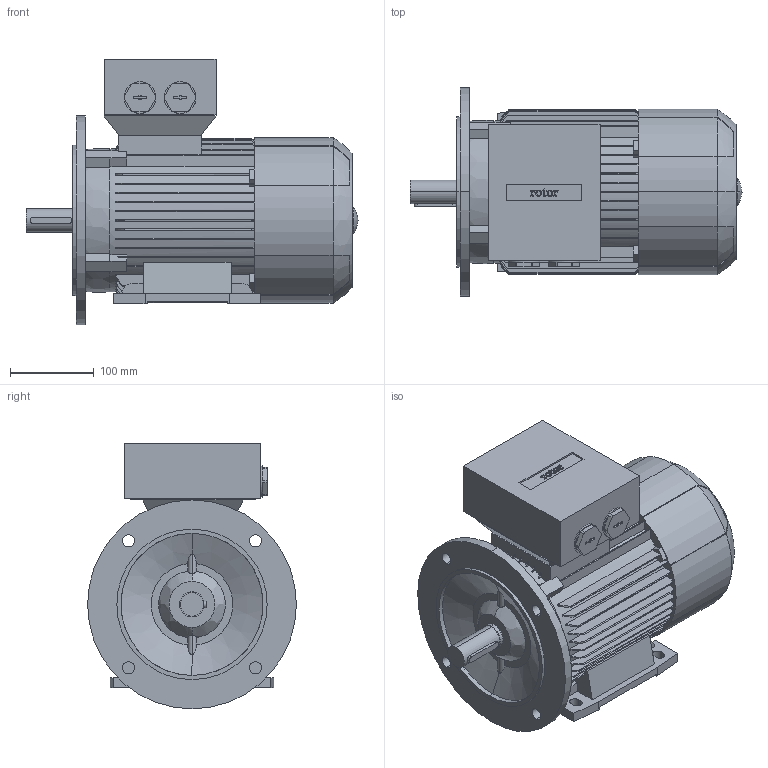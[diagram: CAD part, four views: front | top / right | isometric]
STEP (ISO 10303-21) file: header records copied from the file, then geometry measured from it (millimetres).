
FILE_DESCRIPTION (( 'STEP AP214' ), '1' );
FILE_NAME ('6RN100L04E24 IM2001.STEP', '2014-09-15T12:11:26', ( 'rbc_ict' ), ( 'REGAL' ), 'SwSTEP 2.0', 'SolidWorks 2012', '' );
FILE_SCHEMA (( 'AUTOMOTIVE_DESIGN' ));
Length unit declared in the file: millimetre
Products named in the file (1): 6RN100L04E24 IM2001
Bounding box: 397.5 x 250 x 318 mm (x, y, z)
Volume: 11012986 mm3; surface area: 603797.2 mm2
Topology: 1 solids, 1 shells, 692 faces, 1976 edges, 1306 vertices
Faces by surface type: plane 414, bspline 147, cylinder 125, cone 6
Entity records: 26761 total; most frequent: CARTESIAN_POINT 9473, ORIENTED_EDGE 3948, DIRECTION 3154, EDGE_CURVE 1974, VERTEX_POINT 1306, VECTOR 1144, LINE 1144, AXIS2_PLACEMENT_3D 1005
